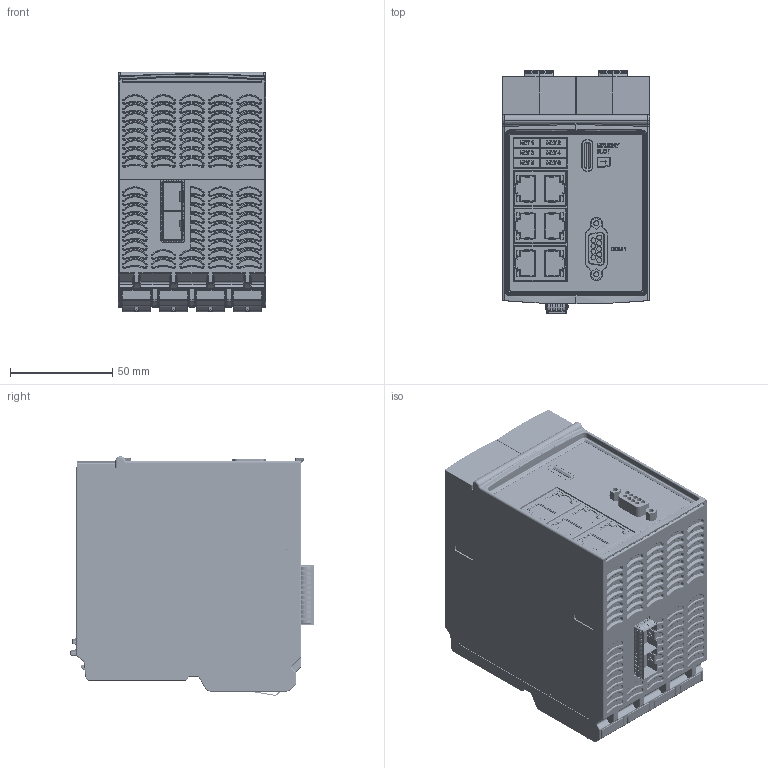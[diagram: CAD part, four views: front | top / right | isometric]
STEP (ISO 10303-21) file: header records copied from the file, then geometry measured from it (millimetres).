
FILE_DESCRIPTION (( 'STEP AP214' ), '1' );
FILE_NAME ('66.014.107-7_NX3035.STEP', '2023-05-10T16:07:22', ( '' ), ( '' ), 'SwSTEP 2.0', 'SolidWorks 2021', '' );
FILE_SCHEMA (( 'AUTOMOTIVE_DESIGN' ));
Length unit declared in the file: millimetre
Products named in the file (18): Cópia de 01.100.292-0^66.014.108-5_NX3035; Cópia de Cópia de CF901400674^66.014.108-5_NX3035; Cópia de 0300-804.5^Cópia de Cópia de CM101400673_66.014.108-5_NX3035; Cópia de 00.301.798-1^Cópia de Cópia de CF401400674_66.014.108-5_NX3035; 66.014.107-7_NX3035; Cópia de 1000-033.0^66.014.108-5_NX3035_pr‚-tensionado; Cópia de Cópia de 00.301.798-1^66.014.108-5_NX3035; Cópia de 01.100.294-7^66.014.108-5_NX3035; Cópia de 01.100.566-0^66.014.108-5_NX3035; Cópia de Cópia de CF401400674^66.014.108-5_NX3035; Cópia de 01.100.293-9^66.014.108-5_NX3035_Slot 1+SFP; Cópia de 00.600.115-6^Cópia de Cópia de SW101400673_66.014.108-5_NX3035; Cópia de 00.701.371-9^Cópia de Cópia de CF901400674_66.014.108-5_NX3035; Cópia de Cópia de CM101400673^66.014.108-5_NX3035; Cópia de Cópia de SW101400673^66.014.108-5_NX3035; Cópia de 01.100.264-5^66.014.108-5_NX3035; Cópia de 00.301.770-1^66.014.108-5_NX3035; Cópia de 01.250.190-4^66.014.108-5_NX3035
Assembly tree (25 placements, depth 3):
  66.014.107-7_NX3035
    Cópia de 01.100.293-9^66.014.108-5_NX3035_Slot 1+SFP
    Cópia de 01.100.292-0^66.014.108-5_NX3035
    Cópia de 01.250.190-4^66.014.108-5_NX3035
    Cópia de Cópia de SW101400673^66.014.108-5_NX3035
      Cópia de 00.600.115-6^Cópia de Cópia de SW101400673_66.014.108-5_NX3035
    Cópia de Cópia de CM101400673^66.014.108-5_NX3035
      Cópia de 0300-804.5^Cópia de Cópia de CM101400673_66.014.108-5_NX3035
    Cópia de Cópia de CF901400674^66.014.108-5_NX3035
      Cópia de 00.701.371-9^Cópia de Cópia de CF901400674_66.014.108-5_NX3035
    Cópia de Cópia de CF401400674^66.014.108-5_NX3035
      Cópia de 00.301.798-1^Cópia de Cópia de CF401400674_66.014.108-5_NX3035
    Cópia de Cópia de 00.301.798-1^66.014.108-5_NX3035  x2
    Cópia de 00.301.770-1^66.014.108-5_NX3035
    Cópia de 01.100.294-7^66.014.108-5_NX3035
    Cópia de 01.100.566-0^66.014.108-5_NX3035  x2
    Cópia de 1000-033.0^66.014.108-5_NX3035_pr‚-tensionado  x4
    Cópia de 01.100.264-5^66.014.108-5_NX3035  x4
Bounding box: 72.2 x 119.21 x 117.37 mm (x, y, z)
Volume: 813614.6 mm3; surface area: 106516.1 mm2
Topology: 23 solids, 23 shells, 5977 faces, 15340 edges, 9585 vertices
Faces by surface type: plane 2264, bspline 1563, cylinder 1096, torus 513, cone 475, sphere 66
Entity records: 210708 total; most frequent: CARTESIAN_POINT 79306, ORIENTED_EDGE 28048, DIRECTION 21501, EDGE_CURVE 14024, VERTEX_POINT 8792, AXIS2_PLACEMENT_3D 7877, EDGE_LOOP 5774, LINE 5747
